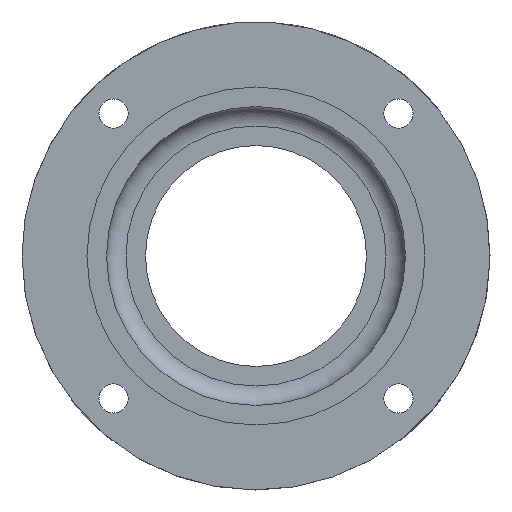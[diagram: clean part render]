
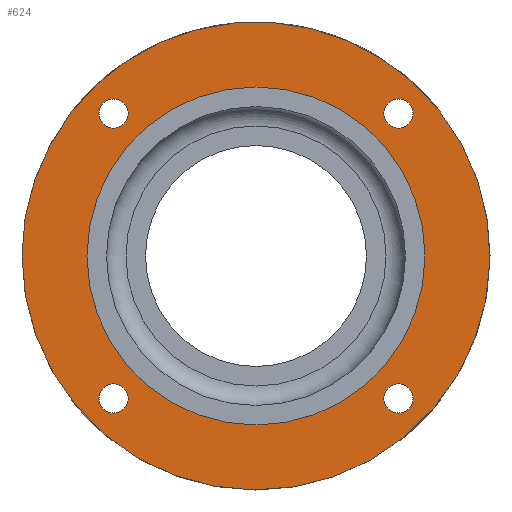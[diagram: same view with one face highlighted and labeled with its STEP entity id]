
A CAD part, left-side view. The second image highlights one B-rep face of the part: STEP entity #624.
In plain terms, the highlighted planar face has unit normal (-1, 0, 0).
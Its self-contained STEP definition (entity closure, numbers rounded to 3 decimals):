
#109=PLANE('',#703);
#143=FACE_BOUND('',#242,.T.);
#144=FACE_BOUND('',#243,.T.);
#145=FACE_BOUND('',#244,.T.);
#146=FACE_BOUND('',#245,.T.);
#147=FACE_BOUND('',#246,.T.);
#184=FACE_OUTER_BOUND('',#241,.T.);
#241=EDGE_LOOP('',(#581));
#242=EDGE_LOOP('',(#582));
#243=EDGE_LOOP('',(#583));
#244=EDGE_LOOP('',(#584));
#245=EDGE_LOOP('',(#585));
#246=EDGE_LOOP('',(#586));
#260=CIRCLE('',#646,2.25);
#262=CIRCLE('',#649,2.25);
#264=CIRCLE('',#652,2.25);
#266=CIRCLE('',#655,2.25);
#284=CIRCLE('',#697,36.);
#286=CIRCLE('',#700,26.);
#308=VERTEX_POINT('',#941);
#310=VERTEX_POINT('',#946);
#312=VERTEX_POINT('',#951);
#314=VERTEX_POINT('',#956);
#344=VERTEX_POINT('',#1132);
#346=VERTEX_POINT('',#1137);
#368=EDGE_CURVE('',#308,#308,#260,.T.);
#370=EDGE_CURVE('',#310,#310,#262,.T.);
#372=EDGE_CURVE('',#312,#312,#264,.T.);
#374=EDGE_CURVE('',#314,#314,#266,.T.);
#424=EDGE_CURVE('',#344,#344,#284,.T.);
#426=EDGE_CURVE('',#346,#346,#286,.T.);
#581=ORIENTED_EDGE('',*,*,#424,.T.);
#582=ORIENTED_EDGE('',*,*,#368,.T.);
#583=ORIENTED_EDGE('',*,*,#370,.T.);
#584=ORIENTED_EDGE('',*,*,#372,.T.);
#585=ORIENTED_EDGE('',*,*,#374,.T.);
#586=ORIENTED_EDGE('',*,*,#426,.T.);
#624=ADVANCED_FACE('',(#184,#143,#144,#145,#146,#147),#109,.F.);
#646=AXIS2_PLACEMENT_3D('',#942,#752,#753);
#649=AXIS2_PLACEMENT_3D('',#947,#758,#759);
#652=AXIS2_PLACEMENT_3D('',#952,#764,#765);
#655=AXIS2_PLACEMENT_3D('',#957,#770,#771);
#697=AXIS2_PLACEMENT_3D('',#1133,#878,#879);
#700=AXIS2_PLACEMENT_3D('',#1138,#884,#885);
#703=AXIS2_PLACEMENT_3D('',#1141,#890,#891);
#752=DIRECTION('center_axis',(1.,0.,0.));
#753=DIRECTION('ref_axis',(0.,1.,0.));
#758=DIRECTION('center_axis',(1.,0.,0.));
#759=DIRECTION('ref_axis',(0.,0.,1.));
#764=DIRECTION('center_axis',(1.,0.,0.));
#765=DIRECTION('ref_axis',(0.,-1.,0.));
#770=DIRECTION('center_axis',(1.,0.,0.));
#771=DIRECTION('ref_axis',(0.,0.,-1.));
#878=DIRECTION('center_axis',(-1.,0.,0.));
#879=DIRECTION('ref_axis',(0.,-1.,0.));
#884=DIRECTION('center_axis',(1.,0.,0.));
#885=DIRECTION('ref_axis',(0.,0.,-1.));
#890=DIRECTION('center_axis',(1.,0.,0.));
#891=DIRECTION('ref_axis',(0.,0.,-1.));
#941=CARTESIAN_POINT('',(0.,-24.17,-21.92));
#942=CARTESIAN_POINT('Origin',(0.,-21.92,-21.92));
#946=CARTESIAN_POINT('',(0.,21.92,-24.17));
#947=CARTESIAN_POINT('Origin',(0.,21.92,-21.92));
#951=CARTESIAN_POINT('',(0.,24.17,21.92));
#952=CARTESIAN_POINT('Origin',(0.,21.92,21.92));
#956=CARTESIAN_POINT('',(0.,-21.92,24.17));
#957=CARTESIAN_POINT('Origin',(0.,-21.92,21.92));
#1132=CARTESIAN_POINT('',(0.,36.,0.));
#1133=CARTESIAN_POINT('Origin',(0.,0.,0.));
#1137=CARTESIAN_POINT('',(0.,0.,26.));
#1138=CARTESIAN_POINT('Origin',(0.,0.,0.));
#1141=CARTESIAN_POINT('Origin',(0.,0.,0.));
